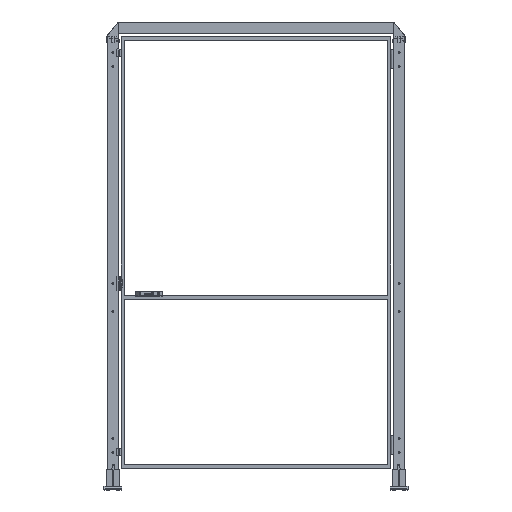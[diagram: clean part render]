
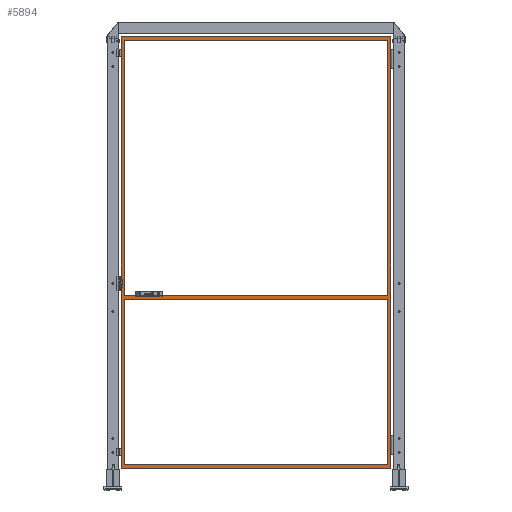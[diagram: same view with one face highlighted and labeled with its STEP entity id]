
A CAD part, top view. The second image highlights one B-rep face of the part: STEP entity #5894.
In plain terms, the highlighted planar face has unit normal (0, 0, 1).
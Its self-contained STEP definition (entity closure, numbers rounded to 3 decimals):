
#5894=ADVANCED_FACE('',(#12068,#12069,#12070),#12071,.F.);
#12068=FACE_BOUND('',#19807,.T.);
#12069=FACE_OUTER_BOUND('',#19808,.T.);
#12070=FACE_BOUND('',#19809,.T.);
#12071=PLANE('',#19810);
#19807=EDGE_LOOP('',(#37257,#37258,#37259,#37260));
#19808=EDGE_LOOP('',(#37261,#37262,#37263,#37264));
#19809=EDGE_LOOP('',(#37265,#37266,#37267,#37268));
#19810=AXIS2_PLACEMENT_3D('',#37269,#37270,#37271);
#37257=ORIENTED_EDGE('',*,*,#44399,.F.);
#37258=ORIENTED_EDGE('',*,*,#44405,.T.);
#37259=ORIENTED_EDGE('',*,*,#44427,.T.);
#37260=ORIENTED_EDGE('',*,*,#44432,.F.);
#37261=ORIENTED_EDGE('',*,*,#44443,.F.);
#37262=ORIENTED_EDGE('',*,*,#44437,.F.);
#37263=ORIENTED_EDGE('',*,*,#44407,.F.);
#37264=ORIENTED_EDGE('',*,*,#44441,.F.);
#37265=ORIENTED_EDGE('',*,*,#44429,.F.);
#37266=ORIENTED_EDGE('',*,*,#44424,.F.);
#37267=ORIENTED_EDGE('',*,*,#44435,.T.);
#37268=ORIENTED_EDGE('',*,*,#44444,.T.);
#37269=CARTESIAN_POINT('',(765.0,130.0,10.0));
#37270=DIRECTION('',(0.,0.0,-1.0));
#37271=DIRECTION('',(-1.0,0.0,0.));
#44399=EDGE_CURVE('',#54881,#54884,#54885,.T.);
#44405=EDGE_CURVE('',#54881,#54892,#54894,.T.);
#44407=EDGE_CURVE('',#54896,#54897,#54898,.T.);
#44424=EDGE_CURVE('',#54924,#54922,#54926,.T.);
#44427=EDGE_CURVE('',#54892,#54928,#54930,.T.);
#44429=EDGE_CURVE('',#54922,#54932,#54933,.T.);
#44432=EDGE_CURVE('',#54884,#54928,#54936,.T.);
#44435=EDGE_CURVE('',#54924,#54938,#54940,.T.);
#44437=EDGE_CURVE('',#54897,#54942,#54943,.T.);
#44441=EDGE_CURVE('',#54946,#54896,#54948,.T.);
#44443=EDGE_CURVE('',#54942,#54946,#54950,.T.);
#44444=EDGE_CURVE('',#54938,#54932,#54951,.T.);
#54881=VERTEX_POINT('',#70715);
#54884=VERTEX_POINT('',#70719);
#54885=LINE('',#70720,#70721);
#54892=VERTEX_POINT('',#70731);
#54894=LINE('',#70734,#70735);
#54896=VERTEX_POINT('',#70737);
#54897=VERTEX_POINT('',#70738);
#54898=LINE('',#70739,#70740);
#54922=VERTEX_POINT('',#70776);
#54924=VERTEX_POINT('',#70779);
#54926=LINE('',#70782,#70783);
#54928=VERTEX_POINT('',#70785);
#54930=LINE('',#70788,#70789);
#54932=VERTEX_POINT('',#70791);
#54933=LINE('',#70792,#70793);
#54936=LINE('',#70797,#70798);
#54938=VERTEX_POINT('',#70800);
#54940=LINE('',#70803,#70804);
#54942=VERTEX_POINT('',#70806);
#54943=LINE('',#70807,#70808);
#54946=VERTEX_POINT('',#70812);
#54948=LINE('',#70815,#70816);
#54950=LINE('',#70818,#70819);
#54951=LINE('',#70820,#70821);
#70715=CARTESIAN_POINT('',(1495.0,2500.0,10.));
#70719=CARTESIAN_POINT('',(35.,2500.0,10.0));
#70720=CARTESIAN_POINT('',(765.0,2500.0,10.0));
#70721=VECTOR('',#78397,1.0);
#70731=CARTESIAN_POINT('',(1495.0,1080.0,10.));
#70734=CARTESIAN_POINT('',(1495.0,1320.0,10.));
#70735=VECTOR('',#78402,1.0);
#70737=CARTESIAN_POINT('',(15.0,120.0,10.0));
#70738=CARTESIAN_POINT('',(15.,2520.0,10.0));
#70739=CARTESIAN_POINT('',(15.0,130.0,10.0));
#70740=VECTOR('',#78403,1.0);
#70776=CARTESIAN_POINT('',(35.,1060.0,10.0));
#70779=CARTESIAN_POINT('',(1495.0,1060.0,10.));
#70782=CARTESIAN_POINT('',(765.0,1060.0,10.0));
#70783=VECTOR('',#78418,1.0);
#70785=CARTESIAN_POINT('',(35.,1080.0,10.0));
#70788=CARTESIAN_POINT('',(765.0,1080.0,10.0));
#70789=VECTOR('',#78420,1.0);
#70791=CARTESIAN_POINT('',(35.0,140.0,10.0));
#70792=CARTESIAN_POINT('',(35.,1320.0,10.0));
#70793=VECTOR('',#78421,1.0);
#70797=CARTESIAN_POINT('',(35.,1320.0,10.0));
#70798=VECTOR('',#78423,1.0);
#70800=CARTESIAN_POINT('',(1495.0,140.0,10.));
#70803=CARTESIAN_POINT('',(1495.0,1320.0,10.));
#70804=VECTOR('',#78425,1.0);
#70806=CARTESIAN_POINT('',(1515.0,2520.0,10.));
#70807=CARTESIAN_POINT('',(25.,2520.0,10.0));
#70808=VECTOR('',#78426,1.0);
#70812=CARTESIAN_POINT('',(1515.0,120.0,10.));
#70815=CARTESIAN_POINT('',(765.0,120.0,10.0));
#70816=VECTOR('',#78429,1.0);
#70818=CARTESIAN_POINT('',(1515.0,1320.0,10.));
#70819=VECTOR('',#78430,1.0);
#70820=CARTESIAN_POINT('',(765.0,140.0,10.0));
#70821=VECTOR('',#78431,1.0);
#78397=DIRECTION('',(-1.0,0.0,0.));
#78402=DIRECTION('',(0.,-1.0,0.));
#78403=DIRECTION('',(0.0,1.0,0.0));
#78418=DIRECTION('',(-1.0,0.0,0.));
#78420=DIRECTION('',(-1.0,0.0,0.));
#78421=DIRECTION('',(0.,-1.0,0.));
#78423=DIRECTION('',(0.,-1.0,0.));
#78425=DIRECTION('',(0.,-1.0,0.));
#78426=DIRECTION('',(1.0,0.,0.));
#78429=DIRECTION('',(-1.0,0.0,0.));
#78430=DIRECTION('',(0.,-1.0,0.));
#78431=DIRECTION('',(-1.0,0.0,0.));
